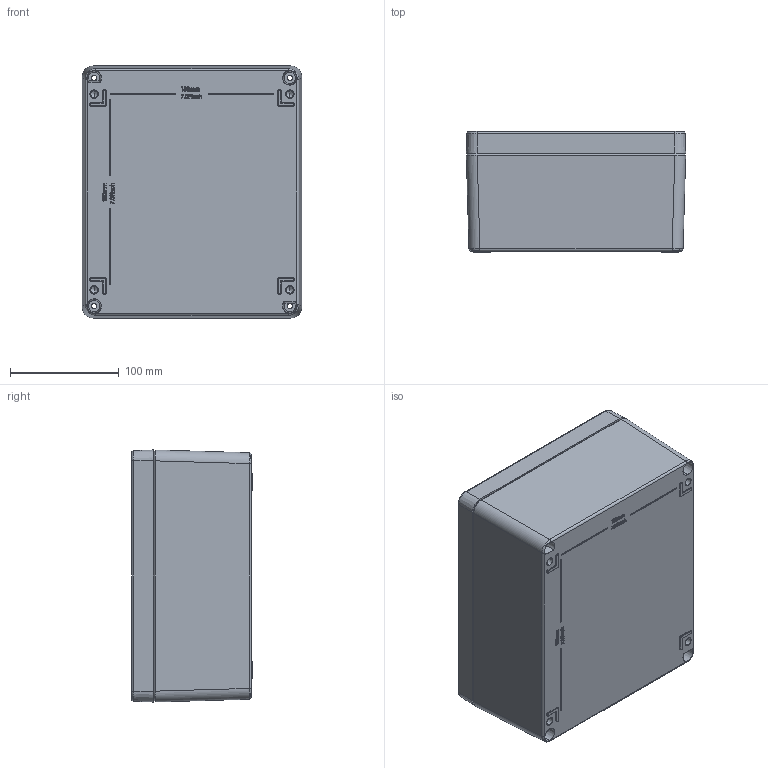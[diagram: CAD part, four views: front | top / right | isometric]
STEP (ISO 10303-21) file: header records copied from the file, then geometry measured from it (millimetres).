
FILE_DESCRIPTION (( 'STEP AP203' ), '1' );
FILE_NAME ('BB091.STEP', '2024-12-24T03:48:01', ( '' ), ( '' ), 'SwSTEP 2.0', 'SolidWorks 2019', '' );
FILE_SCHEMA (( 'CONFIG_CONTROL_DESIGN' ));
Length unit declared in the file: millimetre
Products named in the file (3): COVER_232X202X111; HOUSING_232X202X111; BB091
Assembly tree (2 placements, depth 2):
  BB091
    HOUSING_232X202X111
    COVER_232X202X111
Bounding box: 202 x 111 x 232 mm (x, y, z)
Volume: 936136.3 mm3; surface area: 388569.9 mm2
Topology: 2 solids, 2 shells, 2499 faces, 5475 edges, 2954 vertices
Faces by surface type: bspline 890, cylinder 661, plane 394, cone 217, torus 176, sphere 161
Entity records: 110756 total; most frequent: CARTESIAN_POINT 63074, ORIENTED_EDGE 10668, DIRECTION 8485, EDGE_CURVE 5334, AXIS2_PLACEMENT_3D 3398, VERTEX_POINT 2954, EDGE_LOOP 2638, ADVANCED_FACE 2499
